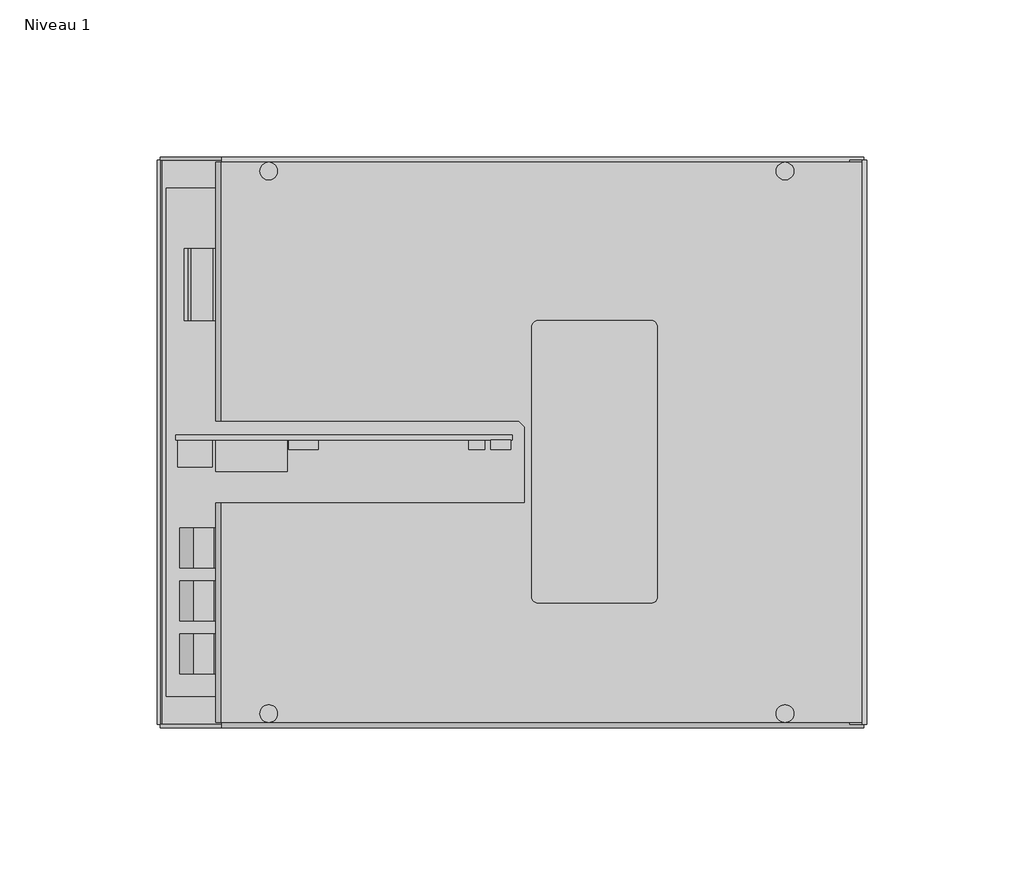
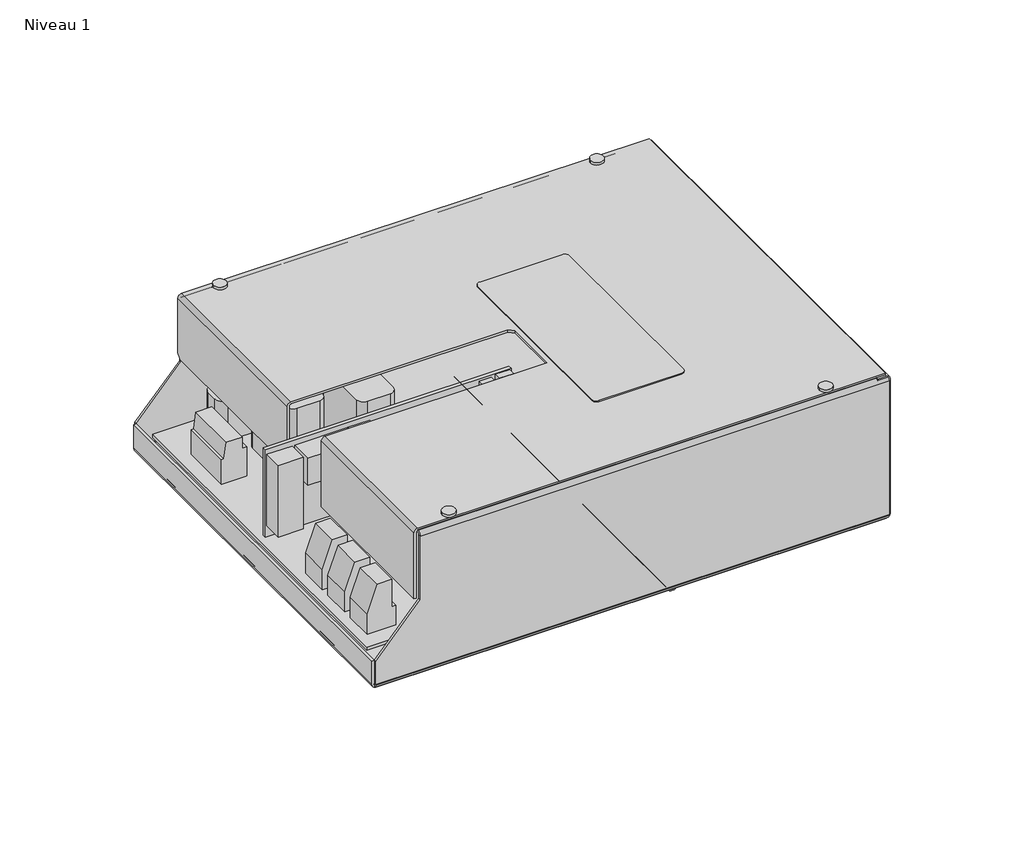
# One storey: 1 proxy.
"""IFC4 building model written with IfcOpenShell, lengths in millimetres."""

import ifcopenshell
import ifcopenshell.guid

model = None  # the IFC model being written
_history = None  # IfcOwnerHistory: only IFC2X3 demands one
_inside = {}  # id of a spatial element -> (the spatial element, [elements in it])
_under = {}  # id of a project, library or spatial element -> (it, [spatial elements below it])
_declared = {}  # id of a project -> (the project, [libraries it declares])
_typed = {}  # id of a type object -> (the type object, [elements of that type])
_made_of = {}  # id of a material, layer set ... -> (it, [elements and type objects made of it])


def new_model(schema):
    """Start an empty IFC model of exactly this schema.

    Asked for "IFC4X3", IfcOpenShell would pick the latest addendum, in which some entities
    have other attributes; the version numbers below select the first issue.
    IFC2X3 requires an IfcOwnerHistory on every rooted entity: one is made here for all.
    """
    global model, _history
    if schema == "IFC4X3":
        model = ifcopenshell.file(schema_version=(4, 3, 0, 0))
    else:
        model = ifcopenshell.file(schema=schema)
    _inside.clear()
    _under.clear()
    _declared.clear()
    _typed.clear()
    _made_of.clear()
    _history = None
    if model.schema == "IFC2X3":
        org = make("IfcOrganization", Name="unknown")
        user = make(
            "IfcPersonAndOrganization",
            ThePerson=make("IfcPerson", FamilyName="unknown"),
            TheOrganization=org,
        )
        app = make(
            "IfcApplication",
            ApplicationDeveloper=org,
            Version="unknown",
            ApplicationFullName="unknown",
            ApplicationIdentifier="unknown",
        )
        _history = make(
            "IfcOwnerHistory",
            OwningUser=user,
            OwningApplication=app,
            ChangeAction="ADDED",
            CreationDate=0,
        )
    return model


def make(cls, **values):
    """One entity of the class cls with the attributes given. An attribute that is None is left unset."""
    return model.create_entity(
        cls, **{name: value for name, value in values.items() if value is not None}
    )


def rooted(cls, **values):
    """An entity with a GlobalId (a new one), such as an element, a storey or a relation."""
    return make(cls, GlobalId=ifcopenshell.guid.new(), OwnerHistory=_history, **values)


def si_unit(unit_type, name, prefix=None):
    """IfcSIUnit, for example si_unit("LENGTHUNIT", "METRE", prefix="MILLI")."""
    return make("IfcSIUnit", UnitType=unit_type, Prefix=prefix, Name=name)


def assignment(units):
    """IfcUnitAssignment: the units of a project."""
    return None if units is None else make("IfcUnitAssignment", Units=units)


def point(xyz):
    """IfcCartesianPoint."""
    return None if xyz is None else make("IfcCartesianPoint", Coordinates=xyz)


def direction(xyz):
    """IfcDirection."""
    return None if xyz is None else make("IfcDirection", DirectionRatios=xyz)


def frame(location, z_axis=None, x_axis=None):
    """IfcAxis2Placement3D, a coordinate frame: its origin and axes. An axis left out is left unset."""
    return make(
        "IfcAxis2Placement3D",
        Location=point(location),
        Axis=direction(z_axis),
        RefDirection=direction(x_axis),
    )


def frame_2d(location, x_axis=None):
    """IfcAxis2Placement2D, a coordinate frame in the plane: its origin and x axis."""
    return make(
        "IfcAxis2Placement2D", Location=point(location), RefDirection=direction(x_axis)
    )


def origin():
    """The frame at (0, 0, 0) with its axes left unset."""
    return frame((0.0, 0.0, 0.0))


def place(relative_to, where):
    """IfcLocalPlacement: puts the frame where relative to a parent placement (None: the world)."""
    return make(
        "IfcLocalPlacement", PlacementRelTo=relative_to, RelativePlacement=where
    )


def context(
    kind, dimensions, precision=None, world=None, true_north=None, identifier=None
):
    """IfcGeometricRepresentationContext, for example the 3D "Model" context."""
    return make(
        "IfcGeometricRepresentationContext",
        ContextIdentifier=identifier,
        ContextType=kind,
        CoordinateSpaceDimension=dimensions,
        Precision=precision,
        WorldCoordinateSystem=world,
        TrueNorth=true_north,
    )


def project(units=None, contexts=None):
    """IfcProject with its units and contexts."""
    return rooted(
        "IfcProject",
        Name="project",
        RepresentationContexts=contexts,
        UnitsInContext=assignment(units),
    )


def spatial(cls, under=None, at=None, **own):
    """A site, building, storey or space (cls), placed at a placement, below another one or the project."""
    s = rooted(cls, ObjectPlacement=at, **own)
    if under is not None:
        _under.setdefault(under.id(), (under, []))[1].append(s)
    return s


def polyline(points):
    """IfcPolyline through the points."""
    return make("IfcPolyline", Points=[point(p) for p in points])


def circle_curve(where, radius):
    """IfcCircle in the frame where."""
    return make("IfcCircle", Position=where, Radius=radius)


def trimmed(basis, trim1, trim2, sense, master):
    """IfcTrimmedCurve: the piece of a basis curve between two trims."""
    return make(
        "IfcTrimmedCurve",
        BasisCurve=basis,
        Trim1=trim1,
        Trim2=trim2,
        SenseAgreement=sense,
        MasterRepresentation=master,
    )


def segment(curve, same_sense, transition):
    """IfcCompositeCurveSegment."""
    return make(
        "IfcCompositeCurveSegment",
        Transition=transition,
        SameSense=same_sense,
        ParentCurve=curve,
    )


def composite_curve(segments, self_intersect=None):
    """IfcCompositeCurve: segments joined end to end."""
    return make("IfcCompositeCurve", Segments=segments, SelfIntersect=self_intersect)


def outline(outer, holes=None, kind="AREA"):
    """IfcArbitraryClosedProfileDef: a profile drawn as a closed curve; with holes, ...WithVoids."""
    if holes is None:
        return make("IfcArbitraryClosedProfileDef", ProfileType=kind, OuterCurve=outer)
    return make(
        "IfcArbitraryProfileDefWithVoids",
        ProfileType=kind,
        OuterCurve=outer,
        InnerCurves=holes,
    )


def extrude(swept, where, along, depth):
    """IfcExtrudedAreaSolid: the profile swept, set in the frame where, extruded along a direction by depth."""
    return make(
        "IfcExtrudedAreaSolid",
        SweptArea=swept,
        Position=where,
        ExtrudedDirection=direction(along),
        Depth=depth,
    )


def shape(context_of_items, identifier, shape_type, items):
    """IfcShapeRepresentation: the items that make up one representation, for example the "Body"."""
    return make(
        "IfcShapeRepresentation",
        ContextOfItems=context_of_items,
        RepresentationIdentifier=identifier,
        RepresentationType=shape_type,
        Items=items,
    )


def source(mapping_origin, context_of_items, identifier, shape_type, items):
    """IfcRepresentationMap: a shape defined once, which mapped items show again and again."""
    return make(
        "IfcRepresentationMap",
        MappingOrigin=mapping_origin,
        MappedRepresentation=shape(context_of_items, identifier, shape_type, items),
    )


def transform(
    local_origin,
    x_axis=None,
    y_axis=None,
    z_axis=None,
    scale=None,
    scale2=None,
    scale3=None,
    uniform=True,
):
    """IfcCartesianTransformationOperator3D, or its non-uniform kind. x_axis, y_axis, z_axis: its Axis1, 2, 3."""
    if uniform:
        return make(
            "IfcCartesianTransformationOperator3D",
            Axis1=direction(x_axis),
            Axis2=direction(y_axis),
            LocalOrigin=point(local_origin),
            Scale=scale,
            Axis3=direction(z_axis),
        )
    return make(
        "IfcCartesianTransformationOperator3DnonUniform",
        Axis1=direction(x_axis),
        Axis2=direction(y_axis),
        LocalOrigin=point(local_origin),
        Scale=scale,
        Axis3=direction(z_axis),
        Scale2=scale2,
        Scale3=scale3,
    )


def mapped(mapping_source, mapping_target):
    """IfcMappedItem: shows the shape of a source again, moved by a transform."""
    return make(
        "IfcMappedItem", MappingSource=mapping_source, MappingTarget=mapping_target
    )


def made_of(thing, what):
    """Note that an element or type object is made of a material, layer set ...; save() writes the relation."""
    if what is not None:
        _made_of.setdefault(what.id(), (what, []))[1].append(thing)
    return thing


def element(
    cls,
    number,
    at=None,
    inside=None,
    cuts=None,
    type_object=None,
    material=None,
    context=None,
    identifier="Body",
    shape_type=None,
    held_by="IfcProductDefinitionShape",
    body=None,
    shapes=None,
    **own,
):
    """One element of the class cls, such as IfcWall. Its Tag is "e" and its number.

    at: its placement. inside: the storey or other place that contains it. cuts: it is an
    opening in that element (IfcRelVoidsElement). A single representation is given by context,
    identifier, shape_type and body (its items); several are given by shapes. held_by: the class
    of the entity that holds the representations. save() writes the other relations.
    """
    e = rooted(cls, Tag="e%d" % number, ObjectPlacement=at, **own)
    if body is not None:
        shapes = [shape(context, identifier, shape_type, body)]
    if shapes is not None:
        e.Representation = make(held_by, Representations=shapes)
    if inside is not None:
        _inside.setdefault(inside.id(), (inside, []))[1].append(e)
    if cuts is not None:
        rooted(
            "IfcRelVoidsElement", RelatingBuildingElement=cuts, RelatedOpeningElement=e
        )
    if type_object is not None:
        _typed.setdefault(type_object.id(), (type_object, []))[1].append(e)
    return made_of(e, material)


def aggregate(whole, parts):
    """IfcRelAggregates: a whole, such as a stair, and the parts it consists of."""
    return rooted("IfcRelAggregates", RelatingObject=whole, RelatedObjects=parts)


def save(model, path):
    """Write the relations noted so far, then the file.

    IfcRelAggregates (storeys below a building ...), IfcRelContainedInSpatialStructure (elements
    in a storey), IfcRelDefinesByType, IfcRelAssociatesMaterial and IfcRelDeclares: one each for
    every whole, place, type object, material and project.
    """
    for whole, parts in _under.values():
        aggregate(whole, parts)
    for where, things in _inside.values():
        rooted(
            "IfcRelContainedInSpatialStructure",
            RelatedElements=things,
            RelatingStructure=where,
        )
    for kind, things in _typed.values():
        rooted("IfcRelDefinesByType", RelatedObjects=things, RelatingType=kind)
    for what, things in _made_of.values():
        rooted("IfcRelAssociatesMaterial", RelatedObjects=things, RelatingMaterial=what)
    for by, libraries in _declared.values():
        rooted("IfcRelDeclares", RelatingContext=by, RelatedDefinitions=libraries)
    model.write(path)


def plane_surface(at):
    """IfcPlane: the flat surface through the origin of the frame at, square to its z axis."""
    return make("IfcPlane", Position=at)


def cylinder_surface(at, radius):
    """IfcCylindricalSurface: all points at the distance radius from the z axis of the frame at."""
    return make("IfcCylindricalSurface", Position=at, Radius=radius)


def revolved_surface(curve, axis_point, axis_direction):
    """IfcSurfaceOfRevolution: the curve turned about the line through axis_point along axis_direction."""
    return make(
        "IfcSurfaceOfRevolution",
        SweptCurve=make("IfcArbitraryOpenProfileDef", ProfileType="CURVE", Curve=curve),
        AxisPosition=make("IfcAxis1Placement", Location=point(axis_point), Axis=direction(axis_direction)),
    )


def advanced_brep(points, edges, surfaces, faces):
    """IfcAdvancedBrep: a solid bounded by faces that lie on surfaces and meet in shared edges.

    An edge is (start, end): straight between two places in points (the first is 0);
    or (start, end, curve); or (start, end, curve, False) where it runs against its curve.
    A face is (place in surfaces, loops), or (place, loops, False) where it looks against
    its surface's normal. A loop lists edges by number (the first is 1), with a minus sign
    where the edge is run from its end to its start. The first loop is the outer one.
    """
    corners = [point(p) for p in points]
    vertices = [make("IfcVertexPoint", VertexGeometry=c) for c in corners]
    made = []
    for start, end, *more in edges:
        made.append(
            make(
                "IfcEdgeCurve",
                EdgeStart=vertices[start],
                EdgeEnd=vertices[end],
                EdgeGeometry=more[0] if more else make("IfcPolyline", Points=[corners[start], corners[end]]),
                SameSense=more[1] if len(more) > 1 else True,
            )
        )
    hull = []
    for where, loops, *sense in faces:
        bounds = []
        for j, loop in enumerate(loops):
            ring = [make("IfcOrientedEdge", EdgeElement=made[abs(k) - 1], Orientation=k > 0) for k in loop]
            bounds.append(
                make(
                    "IfcFaceOuterBound" if j == 0 else "IfcFaceBound",
                    Bound=make("IfcEdgeLoop", EdgeList=ring),
                    Orientation=True,
                )
            )
        hull.append(make("IfcAdvancedFace", Bounds=bounds, FaceSurface=surfaces[where], SameSense=sense[0] if sense else True))
    return make("IfcAdvancedBrep", Outer=make("IfcClosedShell", CfsFaces=hull))


def electrical_equipment_b5e7c551(model_context):
    return source(origin(), model_context, "Body", "SolidModel", [
        extrude(outline(composite_curve([segment(trimmed(circle_curve(frame_2d((-98.4543929, 76.9323952)), 3.2024027), [point((-101.6567956, 76.9323952))], [point((-95.2519902, 76.9323952))], False, "CARTESIAN"), True, "CONTINUOUS"), segment(trimmed(circle_curve(frame_2d((-98.4543929, 76.9323952)), 3.2024027), [point((-95.2519902, 76.9323952))], [point((-101.6567956, 76.9323952))], False, "CARTESIAN"), True, "CONTINUOUS")], self_intersect=False)), frame((0.0, 0.0, -2.9999999), z_axis=(0.0, 0.0, 1.0), x_axis=(1.0, 0.0, 0.0)), (0.0, 0.0, 1.0), 3.0),
        extrude(outline(composite_curve([segment(trimmed(circle_curve(frame_2d((-98.4543929, -76.9323952)), 3.2024027), [point((-101.6567956, -76.9323952))], [point((-95.2519902, -76.9323952))], False, "CARTESIAN"), True, "CONTINUOUS"), segment(trimmed(circle_curve(frame_2d((-98.4543929, -76.9323952)), 3.2024027), [point((-95.2519902, -76.9323952))], [point((-101.6567956, -76.9323952))], False, "CARTESIAN"), True, "CONTINUOUS")], self_intersect=False)), frame((0.0, 0.0, -2.9999999), z_axis=(0.0, 0.0, 1.0), x_axis=(1.0, 0.0, 0.0)), (0.0, 0.0, 1.0), 3.0),
        extrude(outline(composite_curve([segment(trimmed(circle_curve(frame_2d((98.6106429, 76.9323952)), 3.2024027), [point((101.8130456, 76.9323952))], [point((95.4082402, 76.9323952))], False, "CARTESIAN"), True, "CONTINUOUS"), segment(trimmed(circle_curve(frame_2d((98.6106429, 76.9323952)), 3.2024027), [point((95.4082402, 76.9323952))], [point((101.8130456, 76.9323952))], False, "CARTESIAN"), True, "CONTINUOUS")], self_intersect=False)), frame((0.0, 0.0, -2.9999999), z_axis=(0.0, 0.0, 1.0), x_axis=(1.0, 0.0, 0.0)), (0.0, 0.0, 1.0), 3.0),
        extrude(outline(composite_curve([segment(trimmed(circle_curve(frame_2d((98.6106429, -76.9323952)), 3.2024027), [point((101.8130456, -76.9323952))], [point((95.4082402, -76.9323952))], False, "CARTESIAN"), True, "CONTINUOUS"), segment(trimmed(circle_curve(frame_2d((98.6106429, -76.9323952)), 3.2024027), [point((95.4082402, -76.9323952))], [point((101.8130456, -76.9323952))], False, "CARTESIAN"), True, "CONTINUOUS")], self_intersect=False)), frame((0.0, 0.0, -2.9999999), z_axis=(0.0, 0.0, 1.0), x_axis=(1.0, 0.0, 0.0)), (0.0, 0.0, 1.0), 3.0),
        extrude(outline(composite_curve([segment(trimmed(circle_curve(frame_2d((0.0, 72.2401178)), 4.1224355), [point((-4.1224355, 72.2401178))], [point((4.1224355, 72.2401178))], False, "CARTESIAN"), True, "CONTINUOUS"), segment(trimmed(circle_curve(frame_2d((0.0, 72.2401178)), 4.1224355), [point((4.1224355, 72.2401178))], [point((-4.1224355, 72.2401178))], False, "CARTESIAN"), True, "CONTINUOUS")], self_intersect=False)), frame((0.0, 0.0, -5.3849342), z_axis=(0.0, 0.0, 1.0), x_axis=(1.0, 0.0, 0.0)), (0.0, 0.0, 1.0), 1.8849342),
        extrude(outline(composite_curve([segment(trimmed(circle_curve(frame_2d((0.0, -72.1219662)), 4.0439409), [point((-4.0439409, -72.1219662))], [point((4.0439409, -72.1219662))], False, "CARTESIAN"), True, "CONTINUOUS"), segment(trimmed(circle_curve(frame_2d((0.0, -72.1219662)), 4.0439409), [point((4.0439409, -72.1219662))], [point((-4.0439409, -72.1219662))], False, "CARTESIAN"), True, "CONTINUOUS")], self_intersect=False)), frame((0.0, 0.0, -5.3849342), z_axis=(0.0, 0.0, 1.0), x_axis=(1.0, 0.0, 0.0)), (0.0, 0.0, 1.0), 1.8849342),
        extrude(outline(composite_curve([segment(polyline([(-3.5, 18.9413185), (-8.5, 22.51), (-8.5, 24.3521216)]), True, "CONTINUOUS"), segment(trimmed(circle_curve(frame_2d((-7.8421216, 24.3521216)), 0.6578784), [point((-8.5, 24.3521216))], [point((-7.8421216, 25.01))], False, "CARTESIAN"), True, "CONTINUOUS"), segment(polyline([(-7.8421216, 25.01), (-0.6253343, 25.01)]), True, "CONTINUOUS"), segment(trimmed(circle_curve(frame_2d((-0.6253343, 24.3846657)), 0.6253343), [point((-0.6253343, 25.01))], [point((0.0, 24.3846657))], False, "CARTESIAN"), True, "CONTINUOUS"), segment(polyline([(0.0, 24.3846657), (0.0, -24.49)]), True, "CONTINUOUS"), segment(trimmed(circle_curve(frame_2d((-0.5, -24.49)), 0.5), [point((0.0, -24.49))], [point((-0.5, -24.99))], False, "CARTESIAN"), True, "CONTINUOUS"), segment(polyline([(-0.5, -24.99), (-5.6765266, -24.99), (-7.1537895, -22.3789285)]), True, "CONTINUOUS"), segment(trimmed(circle_curve(frame_2d((-6.0048715, -22.3435789)), 1.1494617), [point((-7.1537895, -22.3789285))], [point((-6.0792807, -21.1965281))], False, "CARTESIAN"), True, "CONTINUOUS"), segment(polyline([(-6.0792807, -21.1965281), (-7.9333399, -12.6353371)]), True, "CONTINUOUS"), segment(trimmed(circle_curve(frame_2d((-7.4927941, -13.0515209)), 0.6060441), [point((-7.9333399, -12.6353371))], [point((-6.9004808, -12.9232462))], False, "CARTESIAN"), True, "CONTINUOUS"), segment(polyline([(-6.9004808, -12.9232462), (-4.9144214, -22.0939531)]), True, "CONTINUOUS"), segment(trimmed(circle_curve(frame_2d((-4.2043722, -21.9401809)), 0.7265093), [point((-4.9144214, -22.0939531))], [point((-3.5, -22.1181573))], True, "CARTESIAN"), True, "CONTINUOUS"), segment(polyline([(-3.5, -22.1181573), (-3.5, 18.9413185)]), True, "CONTINUOUS")], self_intersect=False)), frame((0.0, -80.1229466, 0.0), z_axis=(0.0, 1.0, 0.0), x_axis=(0.0, 0.0, 1.0)), (0.0, 0.0, 1.0), 160.1595466),
        extrude(outline(composite_curve([segment(trimmed(circle_curve(frame_2d((-78.9637, 53.8129)), 3.0), [point((-81.9637, 53.8129))], [point((-78.9637, 56.8129))], False, "CARTESIAN"), True, "CONTINUOUS"), segment(polyline([(-78.9637, 56.8129), (-68.9637, 56.8129)]), True, "CONTINUOUS"), segment(trimmed(circle_curve(frame_2d((-68.9637, 53.8129)), 3.0), [point((-68.9637, 56.8129))], [point((-65.9637, 53.8129))], False, "CARTESIAN"), True, "CONTINUOUS"), segment(polyline([(-65.9637, 53.8129), (-65.9637, 28.8129)]), True, "CONTINUOUS"), segment(trimmed(circle_curve(frame_2d((-68.9637, 28.8129)), 3.0), [point((-65.9637, 28.8129))], [point((-68.9637, 25.8129))], False, "CARTESIAN"), True, "CONTINUOUS"), segment(polyline([(-68.9637, 25.8129), (-78.9637, 25.8129)]), True, "CONTINUOUS"), segment(trimmed(circle_curve(frame_2d((-78.9637, 28.8129)), 3.0), [point((-78.9637, 25.8129))], [point((-81.9637, 28.8129))], False, "CARTESIAN"), True, "CONTINUOUS"), segment(polyline([(-81.9637, 28.8129), (-81.9637, 53.8129)]), True, "CONTINUOUS")], self_intersect=False)), frame((0.0, 0.0, 12.6000001), z_axis=(0.0, 0.0, 1.0), x_axis=(1.0, 0.0, 0.0)), (0.0, 0.0, 1.0), 34.5),
        extrude(outline(composite_curve([segment(trimmed(circle_curve(frame_2d((-43.5990807, 19.4592307)), 3.0), [point((-40.5990807, 19.4592307))], [point((-43.5990807, 16.4592307))], False, "CARTESIAN"), True, "CONTINUOUS"), segment(polyline([(-43.5990807, 16.4592307), (-53.5990807, 16.4592307)]), True, "CONTINUOUS"), segment(trimmed(circle_curve(frame_2d((-53.5990807, 19.4592307)), 3.0), [point((-53.5990807, 16.4592307))], [point((-56.5990807, 19.4592307))], False, "CARTESIAN"), True, "CONTINUOUS"), segment(polyline([(-56.5990807, 19.4592307), (-56.5990807, 44.4592307)]), True, "CONTINUOUS"), segment(trimmed(circle_curve(frame_2d((-53.5990807, 44.4592307)), 3.0), [point((-56.5990807, 44.4592307))], [point((-53.5990807, 47.4592307))], False, "CARTESIAN"), True, "CONTINUOUS"), segment(polyline([(-53.5990807, 47.4592307), (-43.5990807, 47.4592307)]), True, "CONTINUOUS"), segment(trimmed(circle_curve(frame_2d((-43.5990807, 44.4592307)), 3.0), [point((-43.5990807, 47.4592307))], [point((-40.5990807, 44.4592307))], False, "CARTESIAN"), True, "CONTINUOUS"), segment(polyline([(-40.5990807, 44.4592307), (-40.5990807, 19.4592307)]), True, "CONTINUOUS")], self_intersect=False)), frame((0.0, 0.0, 12.6000001), z_axis=(0.0, 0.0, 1.0), x_axis=(1.0, 0.0, 0.0)), (0.0, 0.0, 1.0), 34.5),
        extrude(outline(polyline([(-61.6494, -2.29), (-71.1494, -2.29), (-71.1494, 0.71), (-61.6494, 0.71), (-61.6494, -2.29)])), frame((0.0, 0.0, 45.6860001), z_axis=(0.0, 0.0, 1.0), x_axis=(1.0, 0.0, 0.0)), (0.0, 0.0, 1.0), 5.0),
        extrude(outline(polyline([(-8.7244, -2.29), (-13.8044, -2.29), (-13.8044, 0.71), (-8.7244, 0.71), (-8.7244, -2.29)])), frame((0.0, 0.0, 45.6200001), z_axis=(0.0, 0.0, 1.0), x_axis=(1.0, 0.0, 0.0)), (0.0, 0.0, 1.0), 6.35),
        extrude(outline(polyline([(-0.4694, -2.29), (-6.8194, -2.29), (-6.8194, 0.71), (-0.4694, 0.71), (-0.4694, -2.29)])), frame((0.0, 0.0, 42.4450001), z_axis=(0.0, 0.0, 1.0), x_axis=(1.0, 0.0, 0.0)), (0.0, 0.0, 1.0), 10.16),
        extrude(outline(polyline([(-71.6148, -9.29), (-94.3478, -9.29), (-94.3478, 0.71), (-71.6148, 0.71), (-71.6148, -9.29)])), frame((0.0, 0.0, 38.1524001), z_axis=(0.0, 0.0, 1.0), x_axis=(1.0, 0.0, 0.0)), (0.0, 0.0, 1.0), 12.4968),
        extrude(outline(polyline([(-95.4908, -7.89), (-106.489, -7.89), (-106.489, 0.71), (-95.4908, 0.71), (-95.4908, -7.89)])), frame((0.0, 0.0, 17.6546001), z_axis=(0.0, 0.0, 1.0), x_axis=(1.0, 0.0, 0.0)), (0.0, 0.0, 1.0), 32.9946),
        extrude(outline(polyline([(-107.1494, 0.71), (-107.1494, 2.31), (0.0132, 2.31), (0.0132, 0.71), (-107.1494, 0.71)])), frame((0.0, 0.0, 12.6000001), z_axis=(0.0, 0.0, 1.0), x_axis=(1.0, 0.0, 0.0)), (0.0, 0.0, 1.0), 40.386),
        extrude(outline(polyline([(12.6000001, -105.7264), (12.6000001, -93.2296), (21.5126464, -93.2296), (21.5126464, -94.9381951), (34.1000001, -94.9381951), (34.1000001, -101.3394304), (21.8983651, -105.7264), (12.6000001, -105.7264)])), frame((0.0, -39.929, 0.0), z_axis=(0.0, 1.0, 0.0), x_axis=(0.0, 0.0, 1.0)), (0.0, 0.0, 1.0), 12.7),
        extrude(outline(polyline([(12.6000001, -105.7264), (12.6000001, -93.2296), (21.5126464, -93.2296), (21.5126464, -94.9381951), (34.1000001, -94.9381951), (34.1000001, -101.3394304), (21.8983651, -105.7264), (12.6000001, -105.7264)])), frame((0.0, -56.82, 0.0), z_axis=(0.0, 1.0, 0.0), x_axis=(0.0, 0.0, 1.0)), (0.0, 0.0, 1.0), 12.7),
        extrude(outline(polyline([(12.6000001, -105.7264), (12.6000001, -93.2296), (21.5126464, -93.2296), (21.5126464, -94.9381951), (34.1000001, -94.9381951), (34.1000001, -101.3394304), (21.8983651, -105.7264), (12.6000001, -105.7264)])), frame((0.0, -73.761395, 0.0), z_axis=(0.0, 1.0, 0.0), x_axis=(0.0, 0.0, 1.0)), (0.0, 0.0, 1.0), 12.7),
        extrude(outline(composite_curve([segment(trimmed(circle_curve(frame_2d((-87.8194, 71.196)), 3.5052), [point((-91.3246, 71.196))], [point((-87.8194, 74.7012))], False, "CARTESIAN"), True, "CONTINUOUS"), segment(polyline([(-87.8194, 74.7012), (-58.4824, 74.7012), (-58.4824, 62.8902), (-87.6669336, 62.9663336)]), True, "CONTINUOUS"), segment(trimmed(circle_curve(frame_2d((-87.6669336, 66.624)), 3.6576664), [point((-87.6669336, 62.9663336))], [point((-91.3246, 66.624))], False, "CARTESIAN"), True, "CONTINUOUS"), segment(polyline([(-91.3246, 66.624), (-91.3246, 71.196)]), True, "CONTINUOUS")], self_intersect=False)), frame((0.0, 0.0, 12.6000001), z_axis=(0.0, 0.0, 1.0), x_axis=(1.0, 0.0, 0.0)), (0.0, 0.0, 1.0), 18.5),
        extrude(outline(polyline([(-110.0444, 80.9496), (110.0466, 80.9496), (110.0466, -80.95), (-110.0444, -80.95), (-110.0444, 80.9496)])), frame((0.0, 0.0, 11.0000001), z_axis=(0.0, 0.0, 1.0), x_axis=(1.0, 0.0, 0.0)), (0.0, 0.0, 1.0), 1.6),
        extrude(outline(polyline([(12.6000001, -104.3294), (12.6000001, -93.2296), (26.4690736, -93.2296), (26.4690736, -95.2615965), (31.6000001, -95.2615965), (31.6000001, -102.20839), (24.2346609, -103.1751412), (24.2346609, -104.3294), (12.6000001, -104.3294)])), frame((0.0, 38.8618, 0.0), z_axis=(0.0, 1.0, 0.0), x_axis=(0.0, 0.0, 1.0)), (0.0, 0.0, 1.0), 22.86),
        extrude(outline(polyline([(95.1066, 80.9496), (95.1066, -79.0504), (30.1066, -79.0504), (30.1066, 25.9496), (-55.8934, 25.9496), (-55.8934, 80.9496), (95.1066, 80.9496)])), frame((0.0, 0.0, 57.6000001), z_axis=(0.0, 0.0, 1.0), x_axis=(1.0, 0.0, 0.0)), (0.0, 0.0, 1.0), 1.0),
        extrude(outline(composite_curve([segment(polyline([(65.3366001, 107.5465999), (64.3366002, 107.5465999), (64.3366002, 111.3099999)]), True, "CONTINUOUS"), segment(trimmed(circle_curve(frame_2d((63.6000002, 111.3099999)), 0.7366), [point((64.3366002, 111.3099999))], [point((63.6000002, 112.0465999))], True, "CARTESIAN"), True, "CONTINUOUS"), segment(polyline([(63.6000002, 112.0465999), (1.7366001, 112.0465999)]), True, "CONTINUOUS"), segment(trimmed(circle_curve(frame_2d((1.7366001, 111.3099998)), 0.7366001), [point((1.7366001, 112.0465999))], [point((1.0, 111.3099998))], True, "CARTESIAN"), True, "CONTINUOUS"), segment(polyline([(1.0, 111.3099998), (1.0, -111.31)]), True, "CONTINUOUS"), segment(trimmed(circle_curve(frame_2d((1.7366001, -111.31)), 0.7366001), [point((1.0, -111.31))], [point((1.7366001, -112.0466001))], True, "CARTESIAN"), True, "CONTINUOUS"), segment(polyline([(1.7366001, -112.0466001), (12.5999999, -112.0466001), (12.5999999, -113.0466), (1.7366001, -113.0466)]), True, "CONTINUOUS"), segment(trimmed(circle_curve(frame_2d((1.7366001, -111.31)), 1.7366), [point((1.7366001, -113.0466))], [point((1e-07, -111.31))], False, "CARTESIAN"), True, "CONTINUOUS"), segment(polyline([(1e-07, -111.31), (1e-07, 111.3099998)]), True, "CONTINUOUS"), segment(trimmed(circle_curve(frame_2d((1.7366001, 111.3099998)), 1.7366), [point((1e-07, 111.3099998))], [point((1.7366001, 113.0465997))], False, "CARTESIAN"), True, "CONTINUOUS"), segment(polyline([(1.7366001, 113.0465997), (63.6000002, 113.0465997)]), True, "CONTINUOUS"), segment(trimmed(circle_curve(frame_2d((63.6000002, 111.3099999)), 1.7365999), [point((63.6000002, 113.0465997))], [point((65.3366001, 111.3099999))], False, "CARTESIAN"), True, "CONTINUOUS"), segment(polyline([(65.3366001, 111.3099999), (65.3366001, 107.5465999)]), True, "CONTINUOUS")], self_intersect=False)), frame((0.0, -89.8792893, 0.0), z_axis=(0.0, 1.0, 0.0), x_axis=(0.0, 0.0, 1.0)), (0.0, 0.0, 1.0), 179.7585786),
        extrude(outline(composite_curve([segment(polyline([(8.3072684, 38.7834), (44.3712674, 38.7834)]), True, "CONTINUOUS"), segment(trimmed(circle_curve(frame_2d((44.3712674, 36.8446675)), 1.9387325), [point((44.3712674, 38.7834))], [point((46.3099999, 36.8446675))], False, "CARTESIAN"), True, "CONTINUOUS"), segment(polyline([(46.3099999, 36.8446675), (46.3099999, -49.2387016)]), True, "CONTINUOUS"), segment(trimmed(circle_curve(frame_2d((44.3321015, -49.2387016)), 1.9778984), [point((46.3099999, -49.2387016))], [point((44.3321015, -51.2166))], False, "CARTESIAN"), True, "CONTINUOUS"), segment(polyline([(44.3321015, -51.2166), (8.2379927, -51.2166)]), True, "CONTINUOUS"), segment(trimmed(circle_curve(frame_2d((8.2379927, -49.2886071)), 1.9279929), [point((8.2379927, -51.2166))], [point((6.3099999, -49.2886071))], False, "CARTESIAN"), True, "CONTINUOUS"), segment(polyline([(6.3099999, -49.2886071), (6.3099999, 36.7861315)]), True, "CONTINUOUS"), segment(trimmed(circle_curve(frame_2d((8.3072684, 36.7861315)), 1.9972685), [point((6.3099999, 36.7861315))], [point((8.3072684, 38.7834))], False, "CARTESIAN"), True, "CONTINUOUS")], self_intersect=False)), frame((0.0, 0.0, 66.3366001), z_axis=(0.0, 0.0, 1.0), x_axis=(1.0, 0.0, 0.0)), (0.0, 0.0, 1.0), 0.5),
        extrude(outline(composite_curve([segment(trimmed(circle_curve(frame_2d((-77.4918605, 86.4355941)), 2.810918), [point((-80.3027784, 86.4355941))], [point((-74.6809425, 86.4355941))], False, "CARTESIAN"), True, "CONTINUOUS"), segment(trimmed(circle_curve(frame_2d((-77.4918605, 86.4355941)), 2.810918), [point((-74.6809425, 86.4355941))], [point((-80.3027784, 86.4355941))], False, "CARTESIAN"), True, "CONTINUOUS")], self_intersect=False)), frame((0.0, 0.0, 66.3366001), z_axis=(0.0, 0.0, 1.0), x_axis=(1.0, 0.0, 0.0)), (0.0, 0.0, 1.0), 1.2),
        extrude(outline(composite_curve([segment(trimmed(circle_curve(frame_2d((-77.4918605, -86.4355941)), 2.810918), [point((-80.3027784, -86.4355941))], [point((-74.6809425, -86.4355941))], False, "CARTESIAN"), True, "CONTINUOUS"), segment(trimmed(circle_curve(frame_2d((-77.4918605, -86.4355941)), 2.810918), [point((-74.6809425, -86.4355941))], [point((-80.3027784, -86.4355941))], False, "CARTESIAN"), True, "CONTINUOUS")], self_intersect=False)), frame((0.0, 0.0, 66.3366001), z_axis=(0.0, 0.0, 1.0), x_axis=(1.0, 0.0, 0.0)), (0.0, 0.0, 1.0), 1.2),
        extrude(outline(composite_curve([segment(trimmed(circle_curve(frame_2d((86.9449855, 86.4355941)), 2.810918), [point((89.7559034, 86.4355941))], [point((84.1340675, 86.4355941))], False, "CARTESIAN"), True, "CONTINUOUS"), segment(trimmed(circle_curve(frame_2d((86.9449855, 86.4355941)), 2.810918), [point((84.1340675, 86.4355941))], [point((89.7559034, 86.4355941))], False, "CARTESIAN"), True, "CONTINUOUS")], self_intersect=False)), frame((0.0, 0.0, 66.3366001), z_axis=(0.0, 0.0, 1.0), x_axis=(1.0, 0.0, 0.0)), (0.0, 0.0, 1.0), 1.2),
        extrude(outline(composite_curve([segment(trimmed(circle_curve(frame_2d((86.9449855, -86.4355941)), 2.810918), [point((89.7559034, -86.4355941))], [point((84.1340675, -86.4355941))], False, "CARTESIAN"), True, "CONTINUOUS"), segment(trimmed(circle_curve(frame_2d((86.9449855, -86.4355941)), 2.810918), [point((84.1340675, -86.4355941))], [point((89.7559034, -86.4355941))], False, "CARTESIAN"), True, "CONTINUOUS")], self_intersect=False)), frame((0.0, 0.0, 66.3366001), z_axis=(0.0, 0.0, 1.0), x_axis=(1.0, 0.0, 0.0)), (0.0, 0.0, 1.0), 1.2),
        extrude(outline(composite_curve([segment(polyline([(-90.95, 1.7366001), (-89.95, 1.7366001)]), True, "CONTINUOUS"), segment(trimmed(circle_curve(frame_2d((-89.2134001, 1.7366001)), 0.7365999), [point((-89.95, 1.7366001))], [point((-89.2134001, 1.0000002))], True, "CARTESIAN"), True, "CONTINUOUS"), segment(polyline([(-89.2134001, 1.0000002), (-89.2134, 1e-07)]), True, "CONTINUOUS"), segment(trimmed(circle_curve(frame_2d((-89.2134, 1.7366001)), 1.7365999), [point((-89.2134, 1e-07))], [point((-90.95, 1.7366001))], False, "CARTESIAN"), True, "CONTINUOUS")], self_intersect=False)), frame((-111.9758893, 0.0, 0.0), z_axis=(1.0, 0.0, 0.0), x_axis=(0.0, 1.0, 0.0)), (0.0, 0.0, 1.0), 223.9517786),
        extrude(outline(composite_curve([segment(polyline([(-89.2134, 65.3366001), (-82.95, 65.3366001), (-82.95, 64.3366001), (-89.2134, 64.3366001)]), True, "CONTINUOUS"), segment(trimmed(circle_curve(frame_2d((-89.2134, 63.6000001)), 0.7366), [point((-89.2134, 64.3366001))], [point((-89.95, 63.6000001))], True, "CARTESIAN"), True, "CONTINUOUS"), segment(polyline([(-89.95, 63.6000001), (-90.95, 63.6000001)]), True, "CONTINUOUS"), segment(trimmed(circle_curve(frame_2d((-89.2134, 63.6000001)), 1.7366), [point((-90.95, 63.6000001))], [point((-89.2134, 65.3366001))], False, "CARTESIAN"), True, "CONTINUOUS")], self_intersect=False)), frame((-92.4758893, 0.0, 0.0), z_axis=(1.0, 0.0, 0.0), x_axis=(0.0, 1.0, 0.0)), (0.0, 0.0, 1.0), 204.4517786),
        extrude(outline(polyline([(34.3000001, -92.4758893), (12.5999999, -111.9758893), (1.7366001, -111.9758893), (1.7366001, 111.9758893), (63.6000001, 111.9758893), (63.6000001, -92.4758893), (34.3000001, -92.4758893)])), frame((0.0, -90.95, 0.0), z_axis=(0.0, 1.0, 0.0), x_axis=(0.0, 0.0, 1.0)), (0.0, 0.0, 1.0), 1.0707107),
        extrude(outline(composite_curve([segment(trimmed(circle_curve(frame_2d((89.2134, 1.7366001)), 1.7365999), [point((90.95, 1.7366001))], [point((89.2134, 1e-07))], False, "CARTESIAN"), True, "CONTINUOUS"), segment(polyline([(89.2134, 1e-07), (89.2134001, 1.0000002)]), True, "CONTINUOUS"), segment(trimmed(circle_curve(frame_2d((89.2134001, 1.7366001)), 0.7365999), [point((89.2134001, 1.0000002))], [point((89.95, 1.7366001))], True, "CARTESIAN"), True, "CONTINUOUS"), segment(polyline([(89.95, 1.7366001), (90.95, 1.7366001)]), True, "CONTINUOUS")], self_intersect=False)), frame((-111.9758893, 0.0, 0.0), z_axis=(1.0, 0.0, 0.0), x_axis=(0.0, 1.0, 0.0)), (0.0, 0.0, 1.0), 223.9517786),
        extrude(outline(composite_curve([segment(trimmed(circle_curve(frame_2d((89.2134, 63.6000001)), 1.7366), [point((89.2134, 65.3366001))], [point((90.95, 63.6000001))], False, "CARTESIAN"), True, "CONTINUOUS"), segment(polyline([(90.95, 63.6000001), (89.95, 63.6000001)]), True, "CONTINUOUS"), segment(trimmed(circle_curve(frame_2d((89.2134, 63.6000001)), 0.7366), [point((89.95, 63.6000001))], [point((89.2134, 64.3366001))], True, "CARTESIAN"), True, "CONTINUOUS"), segment(polyline([(89.2134, 64.3366001), (82.95, 64.3366001), (82.95, 65.3366001), (89.2134, 65.3366001)]), True, "CONTINUOUS")], self_intersect=False)), frame((-92.4758893, 0.0, 0.0), z_axis=(1.0, 0.0, 0.0), x_axis=(0.0, 1.0, 0.0)), (0.0, 0.0, 1.0), 204.4517786),
        extrude(outline(polyline([(34.3000001, -92.4758893), (12.5999999, -111.9758893), (1.7366001, -111.9758893), (1.7366001, 111.9758893), (63.6000001, 111.9758893), (63.6000001, -92.4758893), (34.3000001, -92.4758893)])), frame((0.0, 89.8792893, 0.0), z_axis=(0.0, 1.0, 0.0), x_axis=(0.0, 0.0, 1.0)), (0.0, 0.0, 1.0), 1.0707107),
        advanced_brep(
        [(-92.5261339, -89.2166, 66.3366001), (-94.2800001, -89.2166, 64.5827338), (-94.2800001, -89.2166, 34.3366001), (-93.2800001, -89.2166, 34.3366001), (-93.2800001, -89.2166, 64.5552056), (-92.4986056, -89.2166, 65.3366001), (111.3099999, -89.2166, 65.3366001), (111.3099999, -89.2166, 66.3366001), (-92.5261339, 89.2134, 66.3366001), (111.3099999, 89.2134, 66.3366001), (111.3099999, 89.2134, 65.3366001), (-92.4986056, 89.2134, 65.3366001), (-93.2800001, 89.2134, 64.5552056), (-93.2800001, 89.2134, 39.5966001), (-94.2800001, 89.2134, 39.5966001), (-94.2800001, 89.2134, 64.5827338), (-92.5261339, 6.8134, 66.3366001), (2.1299999, 6.8134, 66.3366001), (4.1299999, 4.8134, 66.3366001), (4.1299999, -19.2866, 66.3366001), (-92.5261339, -19.2866, 66.3366001), (-92.4986056, -19.2866, 65.3366001), (4.1299999, -19.2866, 65.3366001), (4.1299999, 4.8134, 65.3366001), (2.1299999, 6.8134, 65.3366001), (-92.4986056, 6.8134, 65.3366001), (-93.2800001, -19.2866, 64.5552056), (-93.2800001, 6.8134, 64.5552056), (-93.2800001, -19.2866, 34.3366001), (-93.2800001, 6.8134, 39.5966001), (-93.2800001, 8.8134, 37.5966001), (-93.2800001, 87.2134, 37.5966001), (-94.2800001, -19.2866, 34.3366001), (-94.2800001, -19.2866, 64.5827338), (-94.2800001, 6.8134, 64.5827338), (-94.2800001, 87.2134, 37.5966001), (-94.2800001, 8.8134, 37.5966001), (-94.2800001, 6.8134, 39.5966001)],
        [
            (0, 1, circle_curve(frame((-92.5261339, -89.2166, 64.5827338), z_axis=(0.0, -1.0, 0.0), x_axis=(1.0, 0.0, 0.0)), 1.7538662)),
            (1, 2),
            (2, 3),
            (3, 4),
            (4, 5, circle_curve(frame((-92.4986056, -89.2166, 64.5552056), z_axis=(0.0, 1.0, 0.0), x_axis=(1.0, 0.0, 0.0)), 0.7813945)),
            (5, 6),
            (6, 7),
            (7, 0),
            (8, 9),
            (9, 10),
            (10, 11),
            (11, 12, circle_curve(frame((-92.4986056, 89.2134, 64.5552056), z_axis=(0.0, -1.0, 0.0), x_axis=(1.0, 0.0, 0.0)), 0.7813945)),
            (12, 13),
            (13, 14),
            (14, 15),
            (15, 8, circle_curve(frame((-92.5261339, 89.2134, 64.5827338), z_axis=(0.0, 1.0, 0.0), x_axis=(1.0, 0.0, 0.0)), 1.7538662)),
            (7, 9),
            (8, 16),
            (16, 17),
            (17, 18),
            (18, 19),
            (19, 20),
            (20, 0),
            (6, 10),
            (5, 21),
            (21, 22),
            (22, 23),
            (23, 24),
            (24, 25),
            (25, 11),
            (4, 26),
            (26, 21, circle_curve(frame((-92.4986056, -19.2866, 64.5552056), z_axis=(0.0, 1.0, 0.0), x_axis=(1.0, 0.0, 0.0)), 0.7813945)),
            (25, 27, circle_curve(frame((-92.4986056, 6.8134, 64.5552056), z_axis=(0.0, -1.0, 0.0), x_axis=(1.0, 0.0, 0.0)), 0.7813945)),
            (27, 12),
            (3, 28),
            (28, 26),
            (27, 29),
            (29, 30),
            (30, 31),
            (31, 13),
            (2, 32),
            (32, 28),
            (1, 33),
            (33, 32),
            (34, 15),
            (14, 35),
            (35, 36),
            (36, 37),
            (37, 34),
            (20, 33, circle_curve(frame((-92.5261339, -19.2866, 64.5827338), z_axis=(0.0, -1.0, 0.0), x_axis=(1.0, 0.0, 0.0)), 1.7538662)),
            (34, 16, circle_curve(frame((-92.5261339, 6.8134, 64.5827338), z_axis=(0.0, 1.0, 0.0), x_axis=(1.0, 0.0, 0.0)), 1.7538662)),
            (19, 22),
            (18, 23),
            (17, 24),
            (37, 29),
            (35, 31),
            (30, 36),
        ],
        [
            plane_surface(frame((111.3099999, -89.2166, 66.3366001), z_axis=(0.0, -1.0, 0.0), x_axis=(-1.0, 0.0, 0.0))),
            plane_surface(frame((111.3099999, 89.2134, 66.3366001), z_axis=(0.0, 1.0, 0.0), x_axis=(1.0, 0.0, 0.0))),
            plane_surface(frame((-92.5261339, 89.2134, 66.3366001), z_axis=(0.0, 0.0, 1.0), x_axis=(0.0, -1.0, 0.0))),
            plane_surface(frame((111.3099999, 89.2134, 66.3366001), z_axis=(1.0, 0.0, 0.0), x_axis=(0.0, -1.0, 0.0))),
            plane_surface(frame((111.3099999, 89.2134, 65.3366001), z_axis=(0.0, 0.0, -1.0), x_axis=(0.0, -1.0, 0.0))),
            revolved_surface(polyline([(-91.7172111, -89.2166, 64.5552056), (-91.7172111, -19.286599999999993, 64.5552056)]), (-92.4986056, -89.2166, 64.5552056), (0.0, -1.0, 0.0)),
            revolved_surface(polyline([(-91.7172111, 6.8134000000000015, 64.5552056), (-91.7172111, 89.21340000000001, 64.5552056)]), (-92.4986056, -89.2166, 64.5552056), (0.0, -1.0, 0.0)),
            plane_surface(frame((-93.2800001, 89.2134, 64.5552056), z_axis=(1.0, 0.0, 0.0), x_axis=(0.0, -1.0, 0.0))),
            plane_surface(frame((-93.2800001, 89.2134, 34.3366001), z_axis=(0.0, 0.0, -1.0), x_axis=(0.0, -1.0, 0.0))),
            plane_surface(frame((-94.2800001, 89.2134, 34.3366001), z_axis=(-1.0, 0.0, 0.0), x_axis=(0.0, -1.0, 0.0))),
            cylinder_surface(frame((-92.5261339, -89.2166, 64.5827338), z_axis=(0.0, 1.0, 0.0), x_axis=(1.0, 0.0, 0.0)), 1.7538662),
            plane_surface(frame((-144.2800001, -19.2866, 69.7813373), z_axis=(0.0, 1.0, 0.0), x_axis=(0.0, 0.0, -1.0))),
            plane_surface(frame((4.1299999, -19.2866, 69.7813373), z_axis=(-1.0, 0.0, 0.0), x_axis=(0.0, 0.0, -1.0))),
            plane_surface(frame((4.1299999, 4.8134, 69.7813373), z_axis=(-0.7071067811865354, -0.7071067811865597, 0.0), x_axis=(0.0, 0.0, -1.0))),
            plane_surface(frame((2.1299999, 6.8134, 69.7813373), z_axis=(0.0, -1.0, 0.0), x_axis=(0.0, 0.0, -1.0))),
            plane_surface(frame((-92.2800001, 87.2134, 37.5966001), z_axis=(0.0, 0.0, -1.0), x_axis=(-1.0, 0.0, 0.0))),
            plane_surface(frame((-92.2800001, 8.8134, 37.5966001), z_axis=(0.0, -0.7071067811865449, -0.7071067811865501), x_axis=(-1.0, 0.0, 0.0))),
            plane_surface(frame((-92.2800001, 89.2134, 39.5966001), z_axis=(0.0, 0.707106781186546, -0.707106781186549), x_axis=(-1.0, 0.0, 0.0))),
        ],
        [
            (0, [[1, 2, 3, 4, 5, 6, 7, 8]]),
            (1, [[9, 10, 11, 12, 13, 14, 15, 16]]),
            (2, [[-8, 17, -9, 18, 19, 20, 21, 22, 23]]),
            (3, [[-7, 24, -10, -17]]),
            (4, [[-6, 25, 26, 27, 28, 29, 30, -11, -24]]),
            (5, [[-5, 31, 32, -25]]),
            (6, [[-12, -30, 33, 34]]),
            (7, [[-4, 35, 36, -31]]),
            (7, [[-34, 37, 38, 39, 40, -13]]),
            (8, [[-3, 41, 42, -35]]),
            (9, [[-2, 43, 44, -41]]),
            (9, [[45, -15, 46, 47, 48, 49]]),
            (10, [[-1, -23, 50, -43]]),
            (10, [[-16, -45, 51, -18]]),
            (11, [[52, -26, -32, -36, -42, -44, -50, -22]]),
            (12, [[-52, -21, 53, -27]]),
            (13, [[-53, -20, 54, -28]]),
            (14, [[-54, -19, -51, -49, 55, -37, -33, -29]]),
            (15, [[56, -39, 57, -47]]),
            (16, [[-57, -38, -55, -48]]),
            (17, [[-56, -46, -14, -40]]),
        ],
    ),
    ])


model = new_model("IFC4")

# Units and contexts
model_context = context("Model", 3, world=origin())
ifc_project = project(units=[si_unit("LENGTHUNIT", "METRE", prefix="MILLI")], contexts=[model_context])

# Site, building, storey
site = spatial("IfcSite", under=ifc_project)
building = spatial("IfcBuilding", under=site)
storey = spatial("IfcBuildingStorey", under=building, Name="Niveau 1", Elevation=0.0)

# Proxy
placement = place(None, origin())
electrical_equipment_shape = electrical_equipment_b5e7c551(model_context)
element("IfcBuildingElementProxy", 1, Name="FITIN 12V 24A CG3 : FITIN 12V 24A CG3", ObjectType="FITIN 12V 24A CG3 : FITIN 12V 24A CG3", at=placement, inside=storey, context=model_context, shape_type="MappedRepresentation", body=[
    mapped(electrical_equipment_shape, transform((-4936.4420209, 3187.3058056, 0.0), x_axis=(1.0, 0.0, 0.0), y_axis=(0.0, 1.0, 0.0), z_axis=(0.0, 0.0, 1.0))),
])

save(model, "model.ifc")
